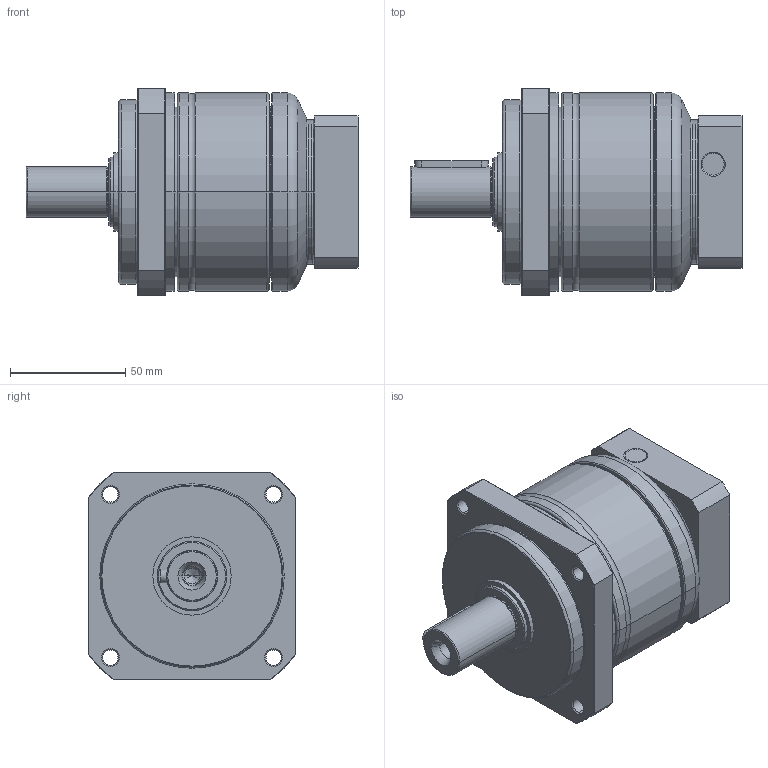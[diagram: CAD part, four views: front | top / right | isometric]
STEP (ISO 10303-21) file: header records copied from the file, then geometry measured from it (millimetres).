
FILE_DESCRIPTION((''),'2;1');
FILE_NAME('PA2-090_1ST_14-P0411304905_ASM','2022-11-02T',('Administrator'),(''),'PRO/ENGINEER BY PARAMETRIC TECHNOLOGY CORPORATION, 2015240','PRO/ENGINEER BY PARAMETRIC TECHNOLOGY CORPORATION, 2015240','');
FILE_SCHEMA(('CONFIG_CONTROL_DESIGN'));
Length unit declared in the file: millimetre
Products named in the file (9): P1324310001_D; P0250320001_D; P1327310001_D; P0350301001_D; P0503300005_D; P0941300001_D; PA2-090_1ST_14_ASM; P0411304905-0013; PA2-090_1ST_14-P0411304905_ASM
Assembly tree (8 placements, depth 3):
  PA2-090_1ST_14-P0411304905_ASM
    PA2-090_1ST_14_ASM
      P1324310001_D
      P0250320001_D
      P1327310001_D
      P0350301001_D
      P0503300005_D
      P0941300001_D
    P0411304905-0013
Bounding box: 144 x 90 x 90 mm (x, y, z)
Volume: 408066 mm3; surface area: 93681.2 mm2
Topology: 7 solids, 13 shells, 301 faces, 714 edges, 439 vertices
Faces by surface type: cylinder 118, plane 71, cone 54, torus 42, bspline 16
Entity records: 13367 total; most frequent: CARTESIAN_POINT 6125, DIRECTION 1590, ORIENTED_EDGE 1384, EDGE_CURVE 704, AXIS2_PLACEMENT_3D 667, VERTEX_POINT 439, CIRCLE 353, EDGE_LOOP 349
